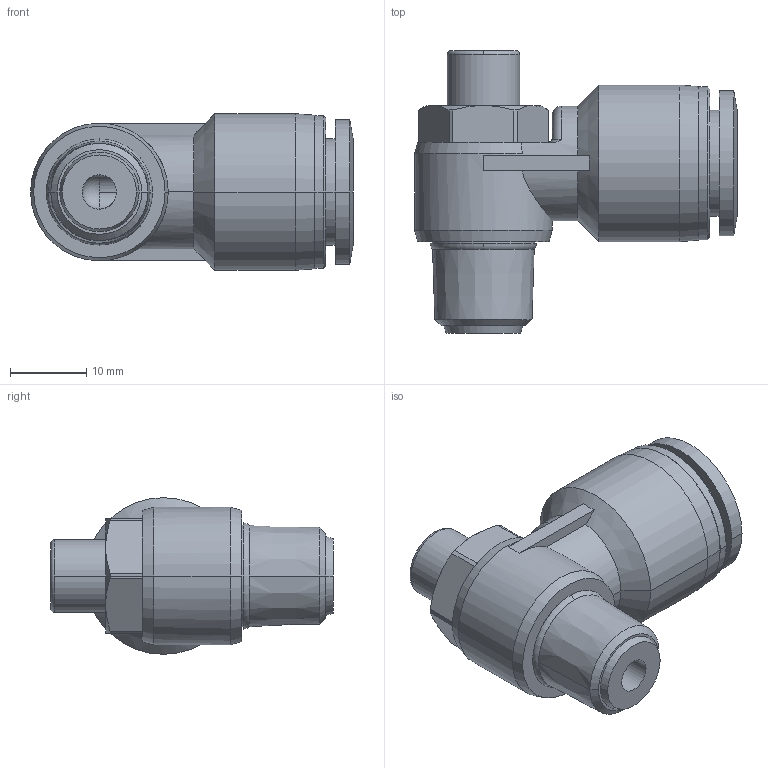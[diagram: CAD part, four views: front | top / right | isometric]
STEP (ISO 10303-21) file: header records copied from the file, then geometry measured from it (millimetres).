
FILE_DESCRIPTION (( 'STEP AP203' ), '1' );
FILE_NAME ('SCLF12-02.STEP', '2020-05-13T17:33:18', ( '' ), ( '' ), 'SwSTEP 2.0', 'SolidWorks 2019', '' );
FILE_SCHEMA (( 'CONFIG_CONTROL_DESIGN' ));
Length unit declared in the file: millimetre
Products named in the file (1): SCLF12-02
Bounding box: 42.25 x 37 x 20.5 mm (x, y, z)
Volume: 9996 mm3; surface area: 5782.6 mm2
Topology: 1 solids, 1 shells, 128 faces, 313 edges, 194 vertices
Faces by surface type: plane 46, cylinder 40, cone 32, torus 5, bspline 4, sphere 1
Entity records: 4276 total; most frequent: CARTESIAN_POINT 1205, DIRECTION 655, ORIENTED_EDGE 620, EDGE_CURVE 310, AXIS2_PLACEMENT_3D 262, VERTEX_POINT 194, EDGE_LOOP 140, CIRCLE 137
